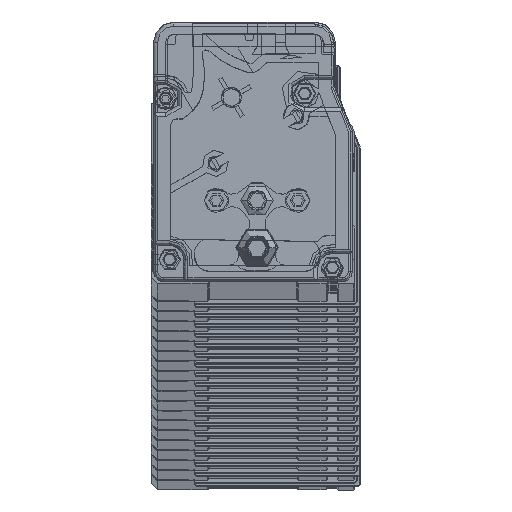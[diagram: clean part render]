
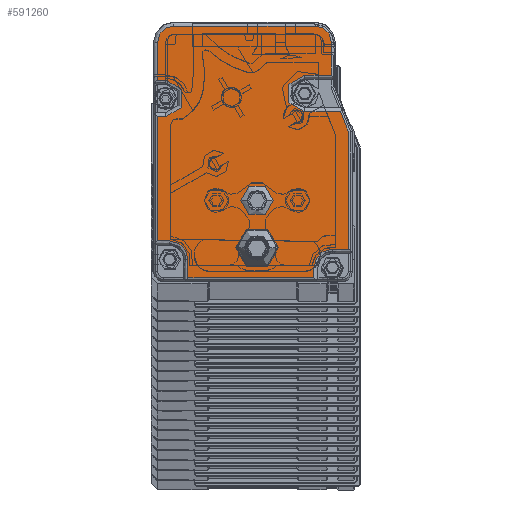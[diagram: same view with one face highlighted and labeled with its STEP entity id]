
A CAD part, top view. The second image highlights one B-rep face of the part: STEP entity #591260.
In plain terms, the highlighted planar face has unit normal (0, 0, 1).
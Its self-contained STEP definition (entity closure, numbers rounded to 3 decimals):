
#517130=CARTESIAN_POINT('',(-20.559,51.727,
2958.89));
#517140=DIRECTION('',(1.,0.,0.));
#517150=VECTOR('',#517140,1.);
#517160=LINE('',#517130,#517150);
#517170=CARTESIAN_POINT('',(-68.559,51.727,
2958.89));
#517180=VERTEX_POINT('',#517170);
#517190=CARTESIAN_POINT('',(-66.559,51.727,
2958.89));
#517200=VERTEX_POINT('',#517190);
#517210=EDGE_CURVE('',#517180,#517200,#517160,.T.);
#517710=CARTESIAN_POINT('',(-20.559,3.124,
2958.89));
#517720=DIRECTION('',(-1.,0.,0.));
#517730=VECTOR('',#517720,1.);
#517740=LINE('',#517710,#517730);
#517750=CARTESIAN_POINT('',(-30.059,3.124,
2958.89));
#517760=VERTEX_POINT('',#517750);
#517770=CARTESIAN_POINT('',(-61.059,3.124,
2958.89));
#517780=VERTEX_POINT('',#517770);
#517790=EDGE_CURVE('',#517760,#517780,#517740,.T.);
#519700=CARTESIAN_POINT('',(-65.559,7.624,
2958.89));
#519710=DIRECTION('',(0.,0.,-1.));
#519720=DIRECTION('',(-1.,0.,0.));
#519730=AXIS2_PLACEMENT_3D('',#519700,#519710,#519720);
#519740=CIRCLE('',#519730,4.5);
#519750=CARTESIAN_POINT('',(-65.559,12.124,
2958.89));
#519760=VERTEX_POINT('',#519750);
#519770=CARTESIAN_POINT('',(-61.059,7.624,
2958.89));
#519780=VERTEX_POINT('',#519770);
#519790=EDGE_CURVE('',#519760,#519780,#519740,.T.);
#553450=CARTESIAN_POINT('',(-32.309,48.424,
2958.89));
#553460=DIRECTION('',(0.,0.,-1.));
#553470=DIRECTION('',(-1.,0.,0.));
#553480=AXIS2_PLACEMENT_3D('',#553450,#553460,#553470);
#553490=CIRCLE('',#553480,4.5);
#553500=CARTESIAN_POINT('',(-32.309,43.924,
2958.89));
#553510=VERTEX_POINT('',#553500);
#553520=CARTESIAN_POINT('',(-32.309,52.924,
2958.89));
#553530=VERTEX_POINT('',#553520);
#553540=EDGE_CURVE('',#553510,#553530,#553490,.T.);
#589260=CARTESIAN_POINT('',(-7.243,2.124,
2958.89));
#589270=DIRECTION('',(0.362,-0.932,0.));
#589280=VECTOR('',#589270,1.);
#589290=LINE('',#589260,#589280);
#589300=CARTESIAN_POINT('',(-23.499,43.924,
2958.89));
#589310=VERTEX_POINT('',#589300);
#589320=CARTESIAN_POINT('',(-21.559,38.937,
2958.89));
#589330=VERTEX_POINT('',#589320);
#589340=EDGE_CURVE('',#589310,#589330,#589290,.T.);
#589620=CARTESIAN_POINT('',(-20.265,1.758,
2958.89));
#589630=DIRECTION('',(0.,0.,-1.));
#589640=DIRECTION('',(-1.,0.,0.));
#589650=AXIS2_PLACEMENT_3D('',#589620,#589630,#589640);
#589660=PLANE('',#589650);
#589670=CARTESIAN_POINT('',(-44.056,10.421,
2958.89));
#589680=DIRECTION('',(0.,0.,-1.));
#589690=DIRECTION('',(-1.,0.,0.));
#589700=AXIS2_PLACEMENT_3D('',#589670,#589680,#589690);
#589710=CIRCLE('',#589700,5.);
#589720=CARTESIAN_POINT('',(-39.056,10.421,
2958.89));
#589730=VERTEX_POINT('',#589720);
#589740=CARTESIAN_POINT('',(-49.056,10.421,
2958.89));
#589750=VERTEX_POINT('',#589740);
#589760=EDGE_CURVE('',#589730,#589750,#589710,.T.);
#589770=ORIENTED_EDGE('',*,*,#589760,.T.);
#589780=EDGE_CURVE('',#589750,#589730,#589710,.T.);
#589790=ORIENTED_EDGE('',*,*,#589780,.T.);
#589800=EDGE_LOOP('',(#589790,#589770));
#589810=FACE_BOUND('',#589800,.T.);
#589820=CARTESIAN_POINT('',(-44.059,22.124,
2958.89));
#589830=DIRECTION('',(0.,0.,1.));
#589840=DIRECTION('',(-1.,0.,0.));
#589850=AXIS2_PLACEMENT_3D('',#589820,#589830,#589840);
#589860=CIRCLE('',#589850,4.);
#589870=CARTESIAN_POINT('',(-40.059,22.124,
2958.89));
#589880=VERTEX_POINT('',#589870);
#589890=CARTESIAN_POINT('',(-48.059,22.124,
2958.89));
#589900=VERTEX_POINT('',#589890);
#589910=EDGE_CURVE('',#589880,#589900,#589860,.T.);
#589920=ORIENTED_EDGE('',*,*,#589910,.F.);
#589930=EDGE_CURVE('',#589900,#589880,#589860,.T.);
#589940=ORIENTED_EDGE('',*,*,#589930,.F.);
#589950=EDGE_LOOP('',(#589940,#589920));
#589960=FACE_BOUND('',#589950,.T.);
#589970=CARTESIAN_POINT('',(-61.059,2.124,
2958.89));
#589980=DIRECTION('',(0.,-1.,0.));
#589990=VECTOR('',#589980,1.);
#590000=LINE('',#589970,#589990);
#590010=EDGE_CURVE('',#519780,#517780,#590000,.T.);
#590020=ORIENTED_EDGE('',*,*,#590010,.T.);
#590030=ORIENTED_EDGE('',*,*,#519790,.T.);
#590040=CARTESIAN_POINT('',(-20.559,12.124,
2958.89));
#590050=DIRECTION('',(1.,0.,0.));
#590060=VECTOR('',#590050,1.);
#590070=LINE('',#590040,#590060);
#590080=CARTESIAN_POINT('',(-68.559,12.124,
2958.89));
#590090=VERTEX_POINT('',#590080);
#590100=EDGE_CURVE('',#590090,#519760,#590070,.T.);
#590110=ORIENTED_EDGE('',*,*,#590100,.T.);
#590120=CARTESIAN_POINT('',(-68.559,2.124,
2958.89));
#590130=DIRECTION('',(0.,-1.,0.));
#590140=VECTOR('',#590130,1.);
#590150=LINE('',#590120,#590140);
#590160=CARTESIAN_POINT('',(-68.559,42.727,
2958.89));
#590170=VERTEX_POINT('',#590160);
#590180=EDGE_CURVE('',#590170,#590090,#590150,.T.);
#590190=ORIENTED_EDGE('',*,*,#590180,.T.);
#590200=CARTESIAN_POINT('',(-20.559,42.727,
2958.89));
#590210=DIRECTION('',(-1.,0.,0.));
#590220=VECTOR('',#590210,1.);
#590230=LINE('',#590200,#590220);
#590240=CARTESIAN_POINT('',(-66.559,42.727,
2958.89));
#590250=VERTEX_POINT('',#590240);
#590260=EDGE_CURVE('',#590250,#590170,#590230,.T.);
#590270=ORIENTED_EDGE('',*,*,#590260,.T.);
#590280=CARTESIAN_POINT('',(-66.559,47.227,
2958.89));
#590290=DIRECTION('',(0.,0.,-1.));
#590300=DIRECTION('',(-1.,0.,0.));
#590310=AXIS2_PLACEMENT_3D('',#590280,#590290,#590300);
#590320=CIRCLE('',#590310,4.5);
#590330=EDGE_CURVE('',#517200,#590250,#590320,.T.);
#590340=ORIENTED_EDGE('',*,*,#590330,.T.);
#590350=ORIENTED_EDGE('',*,*,#517210,.T.);
#590360=CARTESIAN_POINT('',(-68.559,2.124,
2958.89));
#590370=DIRECTION('',(0.,-1.,0.));
#590380=VECTOR('',#590370,1.);
#590390=LINE('',#590360,#590380);
#590400=CARTESIAN_POINT('',(-68.559,61.024,
2958.89));
#590410=VERTEX_POINT('',#590400);
#590420=EDGE_CURVE('',#590410,#517180,#590390,.T.);
#590430=ORIENTED_EDGE('',*,*,#590420,.T.);
#590440=CARTESIAN_POINT('',(-64.559,61.024,
2958.89));
#590450=DIRECTION('',(0.,0.,1.));
#590460=DIRECTION('',(1.,0.,0.));
#590470=AXIS2_PLACEMENT_3D('',#590440,#590450,#590460);
#590480=CIRCLE('',#590470,4.);
#590490=CARTESIAN_POINT('',(-64.559,65.024,
2958.89));
#590500=VERTEX_POINT('',#590490);
#590510=EDGE_CURVE('',#590500,#590410,#590480,.T.);
#590520=ORIENTED_EDGE('',*,*,#590510,.T.);
#590530=CARTESIAN_POINT('',(-20.559,65.024,
2958.89));
#590540=DIRECTION('',(-1.,0.,0.));
#590550=VECTOR('',#590540,1.);
#590560=LINE('',#590530,#590550);
#590570=CARTESIAN_POINT('',(-29.759,65.024,
2958.89));
#590580=VERTEX_POINT('',#590570);
#590590=EDGE_CURVE('',#590580,#590500,#590560,.T.);
#590600=ORIENTED_EDGE('',*,*,#590590,.T.);
#590610=CARTESIAN_POINT('',(-29.759,61.024,
2958.89));
#590620=DIRECTION('',(0.,0.,1.));
#590630=DIRECTION('',(1.,0.,0.));
#590640=AXIS2_PLACEMENT_3D('',#590610,#590620,#590630);
#590650=CIRCLE('',#590640,4.);
#590660=CARTESIAN_POINT('',(-25.759,61.024,
2958.89));
#590670=VERTEX_POINT('',#590660);
#590680=EDGE_CURVE('',#590670,#590580,#590650,.T.);
#590690=ORIENTED_EDGE('',*,*,#590680,.T.);
#590700=CARTESIAN_POINT('',(-25.759,2.124,
2958.89));
#590710=DIRECTION('',(0.,1.,0.));
#590720=VECTOR('',#590710,1.);
#590730=LINE('',#590700,#590720);
#590740=CARTESIAN_POINT('',(-25.759,52.924,
2958.89));
#590750=VERTEX_POINT('',#590740);
#590760=EDGE_CURVE('',#590750,#590670,#590730,.T.);
#590770=ORIENTED_EDGE('',*,*,#590760,.T.);
#590780=CARTESIAN_POINT('',(-20.559,52.924,
2958.89));
#590790=DIRECTION('',(-1.,0.,0.));
#590800=VECTOR('',#590790,1.);
#590810=LINE('',#590780,#590800);
#590820=EDGE_CURVE('',#590750,#553530,#590810,.T.);
#590830=ORIENTED_EDGE('',*,*,#590820,.F.);
#590840=ORIENTED_EDGE('',*,*,#553540,.T.);
#590850=CARTESIAN_POINT('',(-20.559,43.924,
2958.89));
#590860=DIRECTION('',(-1.,0.,0.));
#590870=VECTOR('',#590860,1.);
#590880=LINE('',#590850,#590870);
#590890=EDGE_CURVE('',#589310,#553510,#590880,.T.);
#590900=ORIENTED_EDGE('',*,*,#590890,.T.);
#590910=ORIENTED_EDGE('',*,*,#589340,.F.);
#590920=CARTESIAN_POINT('',(-21.559,2.124,
2958.89));
#590930=DIRECTION('',(0.,-1.,0.));
#590940=VECTOR('',#590930,1.);
#590950=LINE('',#590920,#590940);
#590960=CARTESIAN_POINT('',(-21.559,10.124,
2958.89));
#590970=VERTEX_POINT('',#590960);
#590980=EDGE_CURVE('',#589330,#590970,#590950,.T.);
#590990=ORIENTED_EDGE('',*,*,#590980,.F.);
#591000=CARTESIAN_POINT('',(-20.559,10.124,
2958.89));
#591010=DIRECTION('',(1.,0.,0.));
#591020=VECTOR('',#591010,1.);
#591030=LINE('',#591000,#591020);
#591040=CARTESIAN_POINT('',(-25.559,10.124,
2958.89));
#591050=VERTEX_POINT('',#591040);
#591060=EDGE_CURVE('',#591050,#590970,#591030,.T.);
#591070=ORIENTED_EDGE('',*,*,#591060,.T.);
#591080=CARTESIAN_POINT('',(-25.559,5.624,
2958.89));
#591090=DIRECTION('',(0.,0.,-1.));
#591100=DIRECTION('',(-1.,0.,0.));
#591110=AXIS2_PLACEMENT_3D('',#591080,#591090,#591100);
#591120=CIRCLE('',#591110,4.5);
#591130=CARTESIAN_POINT('',(-30.059,5.624,
2958.89));
#591140=VERTEX_POINT('',#591130);
#591150=EDGE_CURVE('',#591140,#591050,#591120,.T.);
#591160=ORIENTED_EDGE('',*,*,#591150,.T.);
#591170=CARTESIAN_POINT('',(-30.059,2.124,
2958.89));
#591180=DIRECTION('',(0.,1.,0.));
#591190=VECTOR('',#591180,1.);
#591200=LINE('',#591170,#591190);
#591210=EDGE_CURVE('',#517760,#591140,#591200,.T.);
#591220=ORIENTED_EDGE('',*,*,#591210,.T.);
#591230=ORIENTED_EDGE('',*,*,#517790,.F.);
#591240=EDGE_LOOP('',(#591230,#591220,#591160,#591070,#590990,#590910,
#590900,#590840,#590830,#590770,#590690,#590600,#590520,#590430,#590350,
#590340,#590270,#590190,#590110,#590030,#590020));
#591250=FACE_OUTER_BOUND('',#591240,.T.);
#591260=ADVANCED_FACE('',(#589810,#589960,#591250),#589660,.F.);
